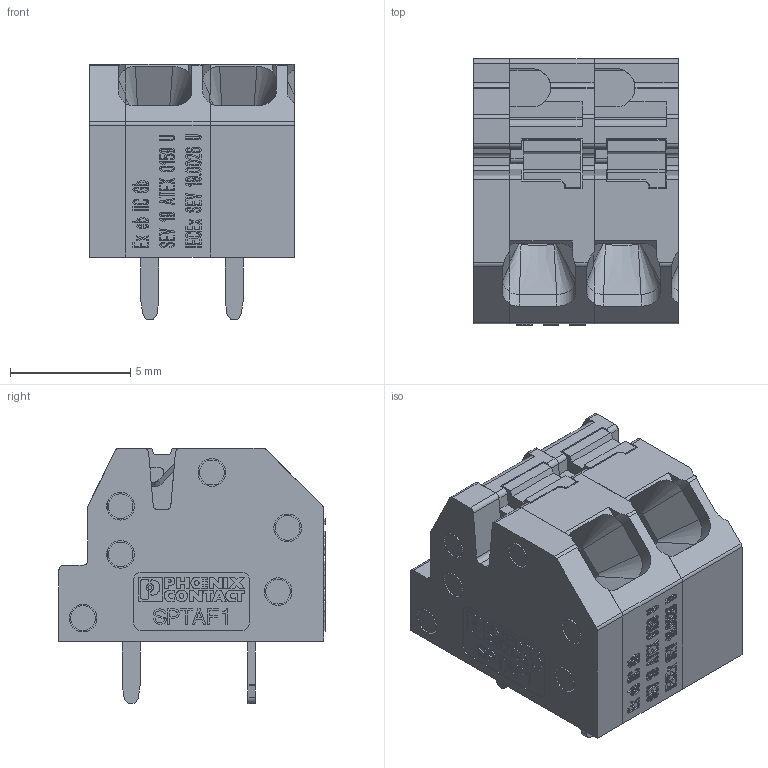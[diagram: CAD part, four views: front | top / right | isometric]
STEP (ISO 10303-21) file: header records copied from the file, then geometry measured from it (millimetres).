
FILE_DESCRIPTION(('Creo Elements/Direct Modeling STEP Export'),'2;1');
FILE_NAME('C:/temp/JobSpoolerServerData/JobServer Files/6a3077c5-5585-448e-ac36-1938f6422e94/work/output/model.stp','2019-12-13T 0:30:56',(''),(''),'Creo Elements/Direct Modeling STEP processor for AP214 (Solid Model)','Creo Elements/Direct Modeling 20.1A 29-Sep-2018 (C) Parametric Technology GmbH','');
FILE_SCHEMA(('AUTOMOTIVE_DESIGN { 1 0 10303 214 1 1 1 1 }'));
Products named in the file (4): SPTAF_1-3.5_housing_EX; SPTAF-0-DKL; SPTAF_1-3.5_housing; SPTAF_1_2_3.5_IL_EX
Assembly tree (3 placements, depth 2):
  SPTAF_1_2_3.5_IL_EX
    SPTAF_1-3.5_housing
    SPTAF-0-DKL
    SPTAF_1-3.5_housing_EX
Bounding box: 8.5 x 11.05 x 10.6 mm (x, y, z)
Volume: 558.5 mm3; surface area: 1102.4 mm2
Topology: 3 solids, 3 shells, 2124 faces, 5977 edges, 3951 vertices
Faces by surface type: plane 1830, cylinder 196, extrusion 33, torus 28, sphere 17, bspline 16, cone 4
Entity records: 85997 total; most frequent: CARTESIAN_POINT 14541, ORIENTED_EDGE 11920, DIRECTION 10205, EDGE_CURVE 5960, VECTOR 5347, LINE 5314, VERTEX_POINT 3951, AXIS2_PLACEMENT_3D 2429
